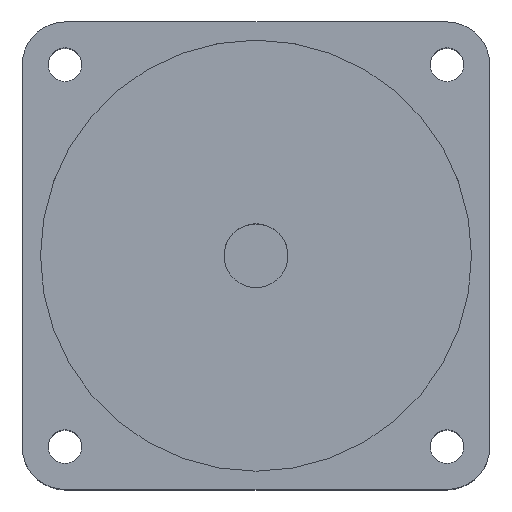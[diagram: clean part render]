
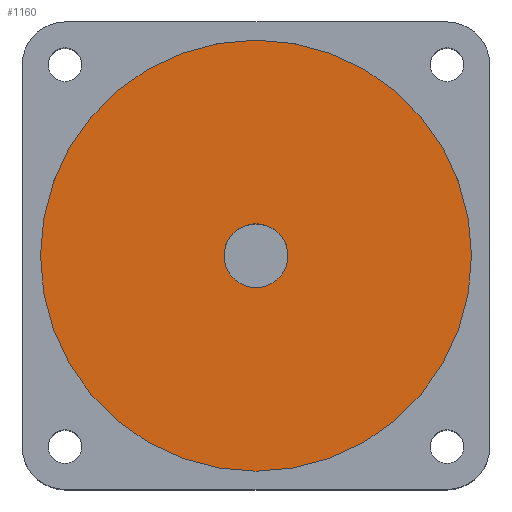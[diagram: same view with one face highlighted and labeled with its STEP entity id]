
A CAD part, top view. The second image highlights one B-rep face of the part: STEP entity #1160.
In plain terms, the highlighted planar face has unit normal (0, 0, 1).
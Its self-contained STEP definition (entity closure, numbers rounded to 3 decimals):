
#13 = CARTESIAN_POINT ( 'NONE',  ( -6.15, 0., -2. ) ) ;
#26 = DIRECTION ( 'NONE',  ( 1., 0., 0. ) ) ;
#59 = CARTESIAN_POINT ( 'NONE',  ( 0., 0., -2. ) ) ;
#160 = AXIS2_PLACEMENT_3D ( 'NONE', #520, #1482, #396 ) ;
#191 = AXIS2_PLACEMENT_3D ( 'NONE', #1494, #755, #26 ) ;
#258 = VERTEX_POINT ( 'NONE', #13 ) ;
#269 = CIRCLE ( 'NONE', #416, 41.5 ) ;
#270 = CIRCLE ( 'NONE', #160, 41.5 ) ;
#280 = VERTEX_POINT ( 'NONE', #311 ) ;
#293 = CARTESIAN_POINT ( 'NONE',  ( -41.5, 0., -2. ) ) ;
#303 = PLANE ( 'NONE',  #1210 ) ;
#311 = CARTESIAN_POINT ( 'NONE',  ( 6.15, 0., -2. ) ) ;
#313 = DIRECTION ( 'NONE',  ( 0., 0., 1. ) ) ;
#396 = DIRECTION ( 'NONE',  ( 1., 0., 0. ) ) ;
#416 = AXIS2_PLACEMENT_3D ( 'NONE', #1066, #594, #475 ) ;
#475 = DIRECTION ( 'NONE',  ( 1., 0., 0. ) ) ;
#505 = CARTESIAN_POINT ( 'NONE',  ( 41.5, 0., -2. ) ) ;
#520 = CARTESIAN_POINT ( 'NONE',  ( 0., 0., -2. ) ) ;
#559 = EDGE_LOOP ( 'NONE', ( #1350, #1330 ) ) ;
#594 = DIRECTION ( 'NONE',  ( 0., 0., 1. ) ) ;
#650 = CARTESIAN_POINT ( 'NONE',  ( 0., 0., -2. ) ) ;
#668 = DIRECTION ( 'NONE',  ( 1., 0., 0. ) ) ;
#690 = FACE_BOUND ( 'NONE', #559, .T. ) ;
#718 = ORIENTED_EDGE ( 'NONE', *, *, #1527, .T. ) ;
#755 = DIRECTION ( 'NONE',  ( 0., 0., -1. ) ) ;
#769 = ORIENTED_EDGE ( 'NONE', *, *, #987, .T. ) ;
#834 = CIRCLE ( 'NONE', #1181, 6.15 ) ;
#910 = EDGE_CURVE ( 'NONE', #280, #258, #834, .T. ) ;
#987 = EDGE_CURVE ( 'NONE', #1175, #1395, #269, .T. ) ;
#1002 = CIRCLE ( 'NONE', #191, 6.15 ) ;
#1024 = DIRECTION ( 'NONE',  ( 0., 0., -1. ) ) ;
#1066 = CARTESIAN_POINT ( 'NONE',  ( 0., 0., -2. ) ) ;
#1117 = DIRECTION ( 'NONE',  ( 1., 0., 0. ) ) ;
#1160 = ADVANCED_FACE ( 'NONE', ( #1526, #690 ), #303, .T. ) ;
#1175 = VERTEX_POINT ( 'NONE', #293 ) ;
#1181 = AXIS2_PLACEMENT_3D ( 'NONE', #59, #1024, #1117 ) ;
#1210 = AXIS2_PLACEMENT_3D ( 'NONE', #650, #313, #668 ) ;
#1280 = EDGE_LOOP ( 'NONE', ( #718, #769 ) ) ;
#1330 = ORIENTED_EDGE ( 'NONE', *, *, #1426, .T. ) ;
#1350 = ORIENTED_EDGE ( 'NONE', *, *, #910, .T. ) ;
#1395 = VERTEX_POINT ( 'NONE', #505 ) ;
#1426 = EDGE_CURVE ( 'NONE', #258, #280, #1002, .T. ) ;
#1482 = DIRECTION ( 'NONE',  ( 0., 0., 1. ) ) ;
#1494 = CARTESIAN_POINT ( 'NONE',  ( 0., 0., -2. ) ) ;
#1526 = FACE_OUTER_BOUND ( 'NONE', #1280, .T. ) ;
#1527 = EDGE_CURVE ( 'NONE', #1395, #1175, #270, .T. ) ;
